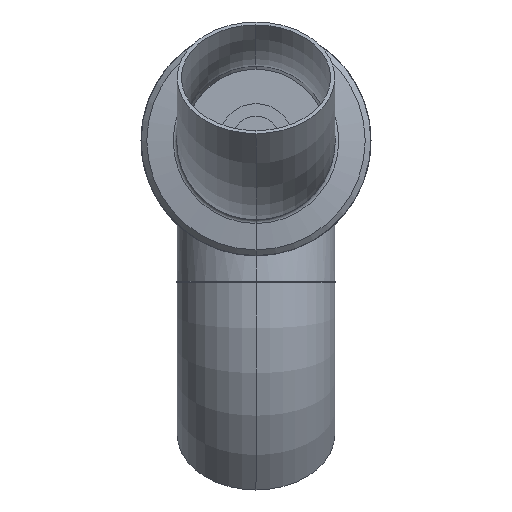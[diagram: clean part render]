
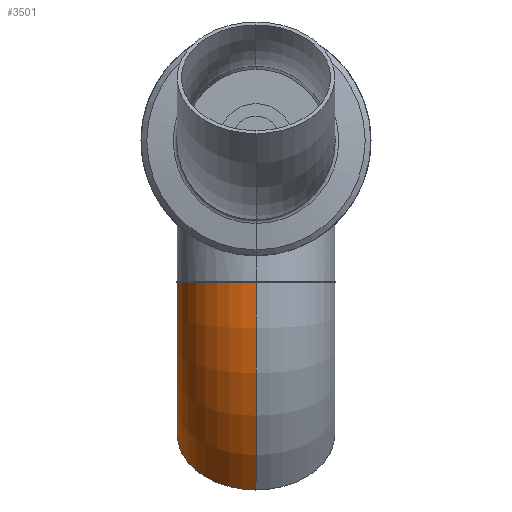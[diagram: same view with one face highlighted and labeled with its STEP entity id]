
A CAD part, front view. The second image highlights one B-rep face of the part: STEP entity #3501.
In plain terms, the highlighted toroidal (fillet/blend) face has major radius 229 mm and minor radius 84.15 mm.
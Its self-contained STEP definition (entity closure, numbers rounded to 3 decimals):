
#398 = CARTESIAN_POINT ( 'NONE',  ( 0., -84.15, 0. ) ) ;
#511 = CIRCLE ( 'NONE', #512, 84.15 ) ;
#512 = AXIS2_PLACEMENT_3D ( 'NONE', #513, #514, #515 ) ;
#513 = CARTESIAN_POINT ( 'NONE',  ( 0., 0., 0. ) ) ;
#514 = DIRECTION ( 'NONE',  ( 1., 0., 0. ) ) ;
#515 = DIRECTION ( 'NONE',  ( 0., 0., -1. ) ) ;
#1141 = CARTESIAN_POINT ( 'NONE',  ( 0., 84.15, 0. ) ) ;
#1305 = CIRCLE ( 'NONE', #1306, 313.15 ) ;
#1306 = AXIS2_PLACEMENT_3D ( 'NONE', #1307, #1308, #1309 ) ;
#1307 = CARTESIAN_POINT ( 'NONE',  ( 0., -229., 0. ) ) ;
#1308 = DIRECTION ( 'NONE',  ( 0., 0., 1. ) ) ;
#1309 = DIRECTION ( 'NONE',  ( 1., 0., 0. ) ) ;
#2567 = FACE_OUTER_BOUND ( 'NONE', #8692, .T. ) ;
#2568 = TOROIDAL_SURFACE ( 'NONE', #2569, 229., 84.15 ) ;
#2569 = AXIS2_PLACEMENT_3D ( 'NONE', #2570, #2571, #2573 ) ;
#2570 = CARTESIAN_POINT ( 'NONE',  ( 0., -229., 0. ) ) ;
#2571 = DIRECTION ( 'NONE',  ( 0., 0., 1. ) ) ;
#2573 = DIRECTION ( 'NONE',  ( 1., 0., 0. ) ) ;
#3501 = ADVANCED_FACE ( 'NONE', ( #2567 ), #2568, .T. ) ;
#4308 = CIRCLE ( 'NONE', #4309, 144.85 ) ;
#4309 = AXIS2_PLACEMENT_3D ( 'NONE', #4310, #4311, #4312 ) ;
#4310 = CARTESIAN_POINT ( 'NONE',  ( 0., -229., 0. ) ) ;
#4311 = DIRECTION ( 'NONE',  ( 0., 0., 1. ) ) ;
#4312 = DIRECTION ( 'NONE',  ( 1., 0., 0. ) ) ;
#5070 = ORIENTED_EDGE ( 'NONE', *, *, #8866, .F. ) ;
#5570 = VERTEX_POINT ( 'NONE', #398 ) ;
#5787 = EDGE_CURVE ( 'NONE', #6643, #5570, #511, .T. ) ;
#6144 = ORIENTED_EDGE ( 'NONE', *, *, #5787, .T. ) ;
#6517 = CARTESIAN_POINT ( 'NONE',  ( 102.424, -126.576, 0. ) ) ;
#6643 = VERTEX_POINT ( 'NONE', #1141 ) ;
#6772 = CARTESIAN_POINT ( 'NONE',  ( 221.43, -7.57, 0. ) ) ;
#6857 = CIRCLE ( 'NONE', #6862, 84.15 ) ;
#6861 = EDGE_CURVE ( 'NONE', #8576, #6643, #1305, .T. ) ;
#6862 = AXIS2_PLACEMENT_3D ( 'NONE', #6863, #6864, #6865 ) ;
#6863 = CARTESIAN_POINT ( 'NONE',  ( 161.927, -67.073, 0. ) ) ;
#6864 = DIRECTION ( 'NONE',  ( 0.707, -0.707, 0. ) ) ;
#6865 = DIRECTION ( 'NONE',  ( 0., 0., -1. ) ) ;
#8523 = ORIENTED_EDGE ( 'NONE', *, *, #6861, .T. ) ;
#8554 = VERTEX_POINT ( 'NONE', #6517 ) ;
#8576 = VERTEX_POINT ( 'NONE', #6772 ) ;
#8597 = EDGE_CURVE ( 'NONE', #8576, #8554, #6857, .T. ) ;
#8637 = ORIENTED_EDGE ( 'NONE', *, *, #8597, .F. ) ;
#8692 = EDGE_LOOP ( 'NONE', ( #8637, #8523, #6144, #5070 ) ) ;
#8866 = EDGE_CURVE ( 'NONE', #8554, #5570, #4308, .T. ) ;
